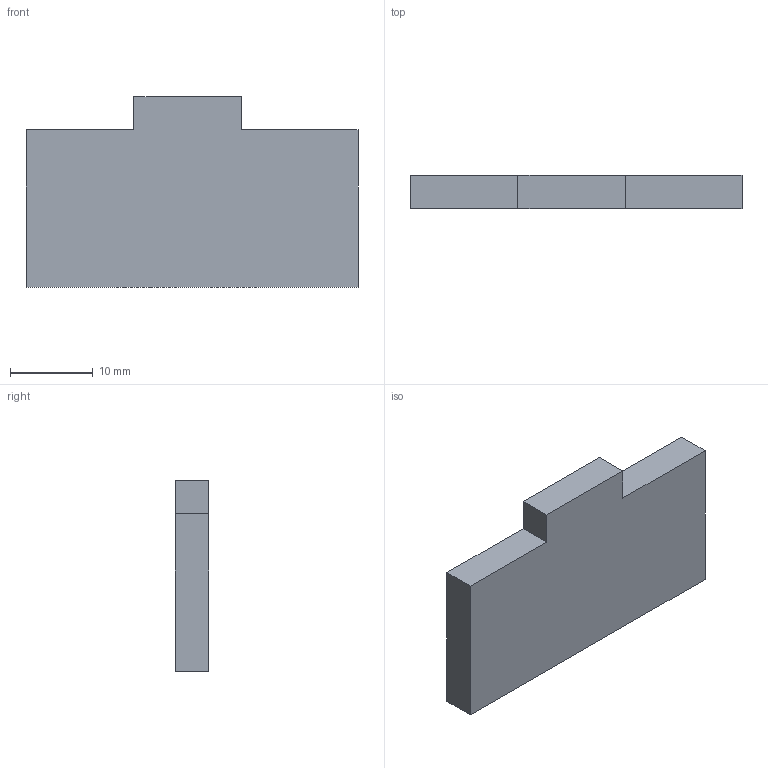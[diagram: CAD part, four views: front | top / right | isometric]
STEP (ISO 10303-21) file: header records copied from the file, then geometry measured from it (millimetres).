
FILE_DESCRIPTION(('STEP AP214'),'1');
FILE_NAME('tmp0.step','2025-04-19T20:54:34',(' '),(' '),'Spatial InterOp 3D',' ',' ');
FILE_SCHEMA(('AUTOMOTIVE_DESIGN { 1 0 10303 214 1 1 1 1 }'));
Length unit declared in the file: millimetre
Products named in the file (1): 1
Bounding box: 40 x 4 x 23 mm (x, y, z)
Volume: 3248 mm3; surface area: 2128 mm2
Topology: 1 solids, 1 shells, 10 faces, 24 edges, 16 vertices
Faces by surface type: plane 10
Entity records: 313 total; most frequent: CARTESIAN_POINT 51, ORIENTED_EDGE 48, DIRECTION 46, EDGE_CURVE 24, LINE 24, VECTOR 24, VERTEX_POINT 16, AXIS2_PLACEMENT_3D 11
